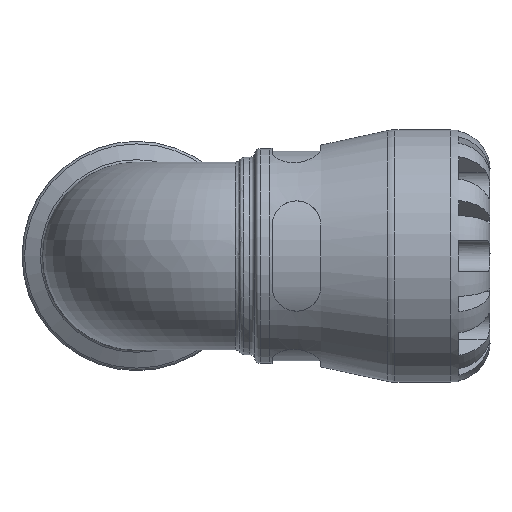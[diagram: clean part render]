
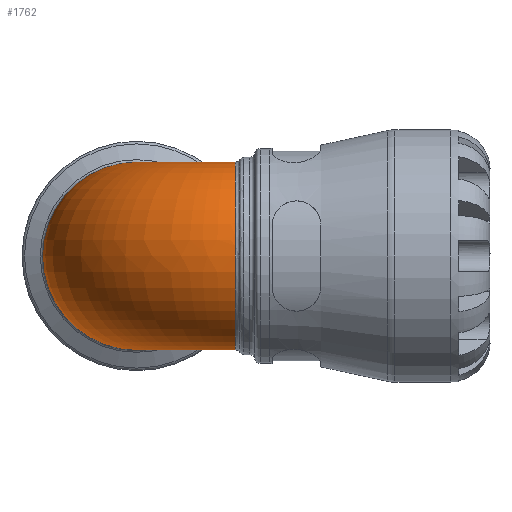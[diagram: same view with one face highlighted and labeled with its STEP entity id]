
A CAD part, front view. The second image highlights one B-rep face of the part: STEP entity #1762.
In plain terms, the highlighted toroidal (fillet/blend) face has major radius 23.875 mm and minor radius 21.511 mm.
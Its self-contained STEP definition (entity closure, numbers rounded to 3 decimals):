
#234=B_SPLINE_CURVE_WITH_KNOTS('',3,(#2700,#2701,#2702,#2703,#2704,#2705,
#2706,#2707,#2708,#2709,#2710,#2711,#2712),.UNSPECIFIED.,.F.,.F.,(4,1,1,
1,1,1,1,1,1,1,4),(-28.42,-27.405,-26.39,
-25.375,-24.36,-23.345,-22.838,
-22.33,-21.992,-21.653,-21.315),
 .UNSPECIFIED.);
#235=B_SPLINE_CURVE_WITH_KNOTS('',3,(#2713,#2714,#2715,#2716,#2717,#2718,
#2719,#2720,#2721,#2722,#2723,#2724,#2725,#2726,#2727,#2728,#2729),
 .UNSPECIFIED.,.F.,.F.,(4,1,1,1,1,1,1,1,1,1,1,3,4),(-21.315,-21.315,
-20.977,-20.638,-20.3,-19.962,
-19.623,-18.27,-17.255,-16.24,
-15.225,-14.21,-14.21),.UNSPECIFIED.);
#356=FACE_BOUND('',#509,.T.);
#387=FACE_OUTER_BOUND('',#508,.T.);
#508=EDGE_LOOP('',(#1168,#1169));
#509=EDGE_LOOP('',(#1170));
#631=CIRCLE('',#1873,21.511);
#728=VERTEX_POINT('',#2579);
#730=VERTEX_POINT('',#2697);
#731=VERTEX_POINT('',#2699);
#893=EDGE_CURVE('',#728,#728,#631,.T.);
#895=EDGE_CURVE('',#730,#731,#234,.T.);
#896=EDGE_CURVE('',#731,#730,#235,.T.);
#1168=ORIENTED_EDGE('',*,*,#895,.F.);
#1169=ORIENTED_EDGE('',*,*,#896,.F.);
#1170=ORIENTED_EDGE('',*,*,#893,.T.);
#1634=TOROIDAL_SURFACE('',#1887,23.875,21.511);
#1762=ADVANCED_FACE('',(#387,#356),#1634,.T.);
#1873=AXIS2_PLACEMENT_3D('',#2580,#2091,#2092);
#1887=AXIS2_PLACEMENT_3D('',#2874,#2119,#2120);
#2091=DIRECTION('center_axis',(0.,-1.,0.));
#2092=DIRECTION('ref_axis',(-1.,0.,0.));
#2119=DIRECTION('center_axis',(0.,0.,1.));
#2120=DIRECTION('ref_axis',(1.,0.,0.));
#2579=CARTESIAN_POINT('',(21.511,23.875,0.));
#2580=CARTESIAN_POINT('Origin',(0.,23.875,0.));
#2697=CARTESIAN_POINT('',(22.588,-21.493,-0.003));
#2699=CARTESIAN_POINT('',(22.001,22.435,-0.003));
#2700=CARTESIAN_POINT('Ctrl Pts',(22.589,-21.494,-0.003));
#2701=CARTESIAN_POINT('Ctrl Pts',(22.589,-21.494,-3.23));
#2702=CARTESIAN_POINT('Ctrl Pts',(22.588,-20.016,-9.678));
#2703=CARTESIAN_POINT('Ctrl Pts',(22.584,-13.794,-17.448));
#2704=CARTESIAN_POINT('Ctrl Pts',(22.576,-4.824,-21.712));
#2705=CARTESIAN_POINT('Ctrl Pts',(22.557,5.122,-21.667));
#2706=CARTESIAN_POINT('Ctrl Pts',(22.522,12.571,-18.025));
#2707=CARTESIAN_POINT('Ctrl Pts',(22.447,17.166,-13.433));
#2708=CARTESIAN_POINT('Ctrl Pts',(22.35,19.528,-9.805));
#2709=CARTESIAN_POINT('Ctrl Pts',(22.202,21.078,-6.321));
#2710=CARTESIAN_POINT('Ctrl Pts',(22.047,22.091,-3.211));
#2711=CARTESIAN_POINT('Ctrl Pts',(22.002,22.435,-1.073));
#2712=CARTESIAN_POINT('Ctrl Pts',(22.002,22.436,-0.003));
#2713=CARTESIAN_POINT('Ctrl Pts',(22.,22.438,-0.003));
#2714=CARTESIAN_POINT('Ctrl Pts',(22.,22.438,-0.002));
#2715=CARTESIAN_POINT('Ctrl Pts',(22.,22.438,1.069));
#2716=CARTESIAN_POINT('Ctrl Pts',(22.045,22.093,3.213));
#2717=CARTESIAN_POINT('Ctrl Pts',(22.2,21.077,6.323));
#2718=CARTESIAN_POINT('Ctrl Pts',(22.327,19.747,9.315));
#2719=CARTESIAN_POINT('Ctrl Pts',(22.412,18.063,12.081));
#2720=CARTESIAN_POINT('Ctrl Pts',(22.516,14.001,17.132));
#2721=CARTESIAN_POINT('Ctrl Pts',(22.552,6.235,21.665));
#2722=CARTESIAN_POINT('Ctrl Pts',(22.575,-4.82,21.712));
#2723=CARTESIAN_POINT('Ctrl Pts',(22.582,-13.793,17.448));
#2724=CARTESIAN_POINT('Ctrl Pts',(22.587,-20.017,9.682));
#2725=CARTESIAN_POINT('Ctrl Pts',(22.588,-21.494,3.224));
#2726=CARTESIAN_POINT('Ctrl Pts',(22.588,-21.494,-0.003));
#2727=CARTESIAN_POINT('Ctrl Pts',(22.588,-21.494,-0.003));
#2728=CARTESIAN_POINT('Ctrl Pts',(22.588,-21.494,-0.003));
#2729=CARTESIAN_POINT('Ctrl Pts',(22.588,-21.494,-0.003));
#2874=CARTESIAN_POINT('Origin',(23.875,23.875,0.));
